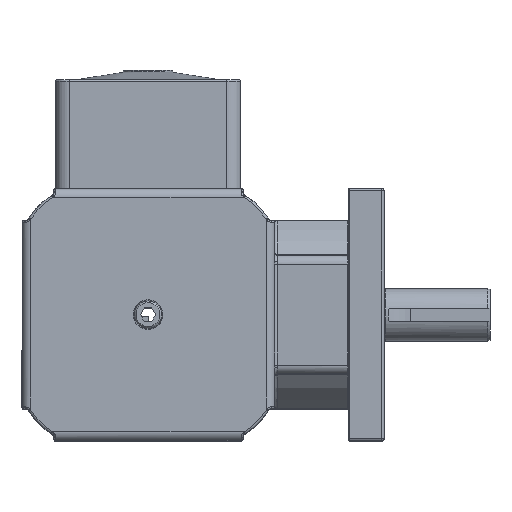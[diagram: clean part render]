
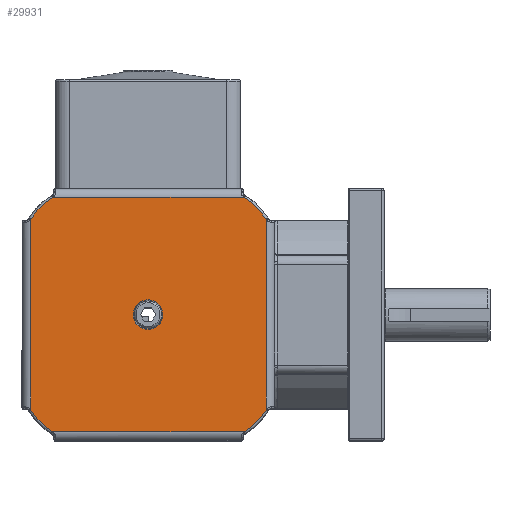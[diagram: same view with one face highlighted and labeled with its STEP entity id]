
A CAD part, top view. The second image highlights one B-rep face of the part: STEP entity #29931.
In plain terms, the highlighted planar face has unit normal (0, 0, 1).
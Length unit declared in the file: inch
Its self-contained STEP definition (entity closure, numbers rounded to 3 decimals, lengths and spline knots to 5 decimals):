
#218 = DIRECTION ( 'NONE',  ( -1., 0., 0. ) ) ;
#219 = DIRECTION ( 'NONE',  ( 0., 0., 1. ) ) ;
#220 = CARTESIAN_POINT ( 'NONE',  ( 0.861, -0.85, 12.228 ) ) ;
#221 = AXIS2_PLACEMENT_3D ( 'NONE', #220, #219, #218 ) ;
#222 = CIRCLE ( 'NONE', #221, 0.95275 ) ;
#228 = CARTESIAN_POINT ( 'NONE',  ( 1.671, -1.35163, 12.228 ) ) ;
#285 = FACE_OUTER_BOUND ( 'NONE', #29935, .T. ) ;
#286 = FACE_BOUND ( 'NONE', #29932, .T. ) ;
#287 = DIRECTION ( 'NONE',  ( 1., 0., 0. ) ) ;
#288 = DIRECTION ( 'NONE',  ( 0., 0., 1. ) ) ;
#289 = CARTESIAN_POINT ( 'NONE',  ( 0., 0., 12.228 ) ) ;
#290 = AXIS2_PLACEMENT_3D ( 'NONE', #289, #288, #287 ) ;
#291 = CIRCLE ( 'NONE', #290, 0.20931 ) ;
#321 = LINE ( 'NONE', #24715, #54001 ) ;
#346 = DIRECTION ( 'NONE',  ( -1., 0., 0. ) ) ;
#347 = DIRECTION ( 'NONE',  ( 0., 0., -1. ) ) ;
#348 = CARTESIAN_POINT ( 'NONE',  ( -1.785, -1.785, 12.228 ) ) ;
#349 = AXIS2_PLACEMENT_3D ( 'NONE', #348, #347, #346 ) ;
#350 = PLANE ( 'NONE',  #349 ) ;
#369 = CARTESIAN_POINT ( 'NONE',  ( 1.36263, -1.66, 12.228 ) ) ;
#461 = DIRECTION ( 'NONE',  ( 1., 0., 0. ) ) ;
#462 = VECTOR ( 'NONE', #461, 39.37008 ) ;
#463 = CARTESIAN_POINT ( 'NONE',  ( -1.785, -1.66, 12.228 ) ) ;
#464 = LINE ( 'NONE', #463, #462 ) ;
#465 = DIRECTION ( 'NONE',  ( -1., 0., 0. ) ) ;
#466 = DIRECTION ( 'NONE',  ( 0., 0., 1. ) ) ;
#467 = CARTESIAN_POINT ( 'NONE',  ( -0.85, -0.85, 12.228 ) ) ;
#468 = AXIS2_PLACEMENT_3D ( 'NONE', #467, #466, #465 ) ;
#469 = CIRCLE ( 'NONE', #468, 0.95275 ) ;
#470 = CARTESIAN_POINT ( 'NONE',  ( -1.35163, -1.66, 12.228 ) ) ;
#471 = CARTESIAN_POINT ( 'NONE',  ( -1.66, -1.35163, 12.228 ) ) ;
#472 = DIRECTION ( 'NONE',  ( 0., -1., 0. ) ) ;
#473 = VECTOR ( 'NONE', #472, 39.37008 ) ;
#474 = CARTESIAN_POINT ( 'NONE',  ( -1.66, -1.785, 12.228 ) ) ;
#475 = LINE ( 'NONE', #474, #473 ) ;
#9017 = CARTESIAN_POINT ( 'NONE',  ( 1.36263, 1.66, 12.228 ) ) ;
#9024 = DIRECTION ( 'NONE',  ( -1., 0., 0. ) ) ;
#9025 = VECTOR ( 'NONE', #9024, 39.37008 ) ;
#9026 = CARTESIAN_POINT ( 'NONE',  ( -1.785, 1.66, 12.228 ) ) ;
#9027 = LINE ( 'NONE', #9026, #9025 ) ;
#10428 = CARTESIAN_POINT ( 'NONE',  ( -0.85, 0.85, 12.228 ) ) ;
#10429 = AXIS2_PLACEMENT_3D ( 'NONE', #10428, #10496, #10495 ) ;
#10430 = CIRCLE ( 'NONE', #10429, 0.95275 ) ;
#10495 = DIRECTION ( 'NONE',  ( -1., 0., 0. ) ) ;
#10496 = DIRECTION ( 'NONE',  ( 0., 0., 1. ) ) ;
#10627 = CARTESIAN_POINT ( 'NONE',  ( -1.35163, 1.66, 12.228 ) ) ;
#10697 = CARTESIAN_POINT ( 'NONE',  ( -1.66, 1.35163, 12.228 ) ) ;
#22039 = CARTESIAN_POINT ( 'NONE',  ( 0.20931, 0., 12.228 ) ) ;
#22620 = CARTESIAN_POINT ( 'NONE',  ( 0., 0., 12.228 ) ) ;
#22636 = CARTESIAN_POINT ( 'NONE',  ( -0.20931, 0., 12.228 ) ) ;
#22674 = DIRECTION ( 'NONE',  ( 1., 0., 0. ) ) ;
#22675 = DIRECTION ( 'NONE',  ( 0., 0., 1. ) ) ;
#22676 = AXIS2_PLACEMENT_3D ( 'NONE', #22620, #22675, #22674 ) ;
#22677 = CIRCLE ( 'NONE', #22676, 0.20931 ) ;
#24715 = CARTESIAN_POINT ( 'NONE',  ( 1.671, 1.337, 12.228 ) ) ;
#29486 = VERTEX_POINT ( 'NONE', #52997 ) ;
#29579 = EDGE_CURVE ( 'NONE', #29486, #36552, #53379, .T. ) ;
#29880 = VERTEX_POINT ( 'NONE', #228 ) ;
#29883 = EDGE_CURVE ( 'NONE', #29968, #29880, #222, .T. ) ;
#29930 = EDGE_CURVE ( 'NONE', #57469, #57705, #291, .T. ) ;
#29931 = ADVANCED_FACE ( 'NONE', ( #286, #285 ), #350, .F. ) ;
#29932 = EDGE_LOOP ( 'NONE', ( #29933, #29934 ) ) ;
#29933 = ORIENTED_EDGE ( 'NONE', *, *, #29930, .F. ) ;
#29934 = ORIENTED_EDGE ( 'NONE', *, *, #57720, .F. ) ;
#29935 = EDGE_LOOP ( 'NONE', ( #29937, #29938, #29939, #30000, #30001, #30004, #30007, #30009 ) ) ;
#29937 = ORIENTED_EDGE ( 'NONE', *, *, #29958, .T. ) ;
#29938 = ORIENTED_EDGE ( 'NONE', *, *, #29579, .T. ) ;
#29939 = ORIENTED_EDGE ( 'NONE', *, *, #36491, .T. ) ;
#29958 = EDGE_CURVE ( 'NONE', #29880, #29486, #321, .T. ) ;
#29968 = VERTEX_POINT ( 'NONE', #369 ) ;
#30000 = ORIENTED_EDGE ( 'NONE', *, *, #37733, .T. ) ;
#30001 = ORIENTED_EDGE ( 'NONE', *, *, #30002, .T. ) ;
#30002 = EDGE_CURVE ( 'NONE', #37844, #30003, #475, .T. ) ;
#30003 = VERTEX_POINT ( 'NONE', #471 ) ;
#30004 = ORIENTED_EDGE ( 'NONE', *, *, #30005, .T. ) ;
#30005 = EDGE_CURVE ( 'NONE', #30003, #30006, #469, .T. ) ;
#30006 = VERTEX_POINT ( 'NONE', #470 ) ;
#30007 = ORIENTED_EDGE ( 'NONE', *, *, #30008, .T. ) ;
#30008 = EDGE_CURVE ( 'NONE', #30006, #29968, #464, .T. ) ;
#30009 = ORIENTED_EDGE ( 'NONE', *, *, #29883, .T. ) ;
#36491 = EDGE_CURVE ( 'NONE', #36552, #37795, #9027, .T. ) ;
#36552 = VERTEX_POINT ( 'NONE', #9017 ) ;
#37733 = EDGE_CURVE ( 'NONE', #37795, #37844, #10430, .T. ) ;
#37795 = VERTEX_POINT ( 'NONE', #10627 ) ;
#37844 = VERTEX_POINT ( 'NONE', #10697 ) ;
#52997 = CARTESIAN_POINT ( 'NONE',  ( 1.671, 1.35163, 12.228 ) ) ;
#53374 = DIRECTION ( 'NONE',  ( -1., 0., 0. ) ) ;
#53375 = DIRECTION ( 'NONE',  ( 0., 0., 1. ) ) ;
#53377 = CARTESIAN_POINT ( 'NONE',  ( 0.861, 0.85, 12.228 ) ) ;
#53378 = AXIS2_PLACEMENT_3D ( 'NONE', #53377, #53375, #53374 ) ;
#53379 = CIRCLE ( 'NONE', #53378, 0.95275 ) ;
#54001 = VECTOR ( 'NONE', #54003, 39.37008 ) ;
#54003 = DIRECTION ( 'NONE',  ( 0., 1., 0. ) ) ;
#57469 = VERTEX_POINT ( 'NONE', #22039 ) ;
#57705 = VERTEX_POINT ( 'NONE', #22636 ) ;
#57720 = EDGE_CURVE ( 'NONE', #57705, #57469, #22677, .T. ) ;
